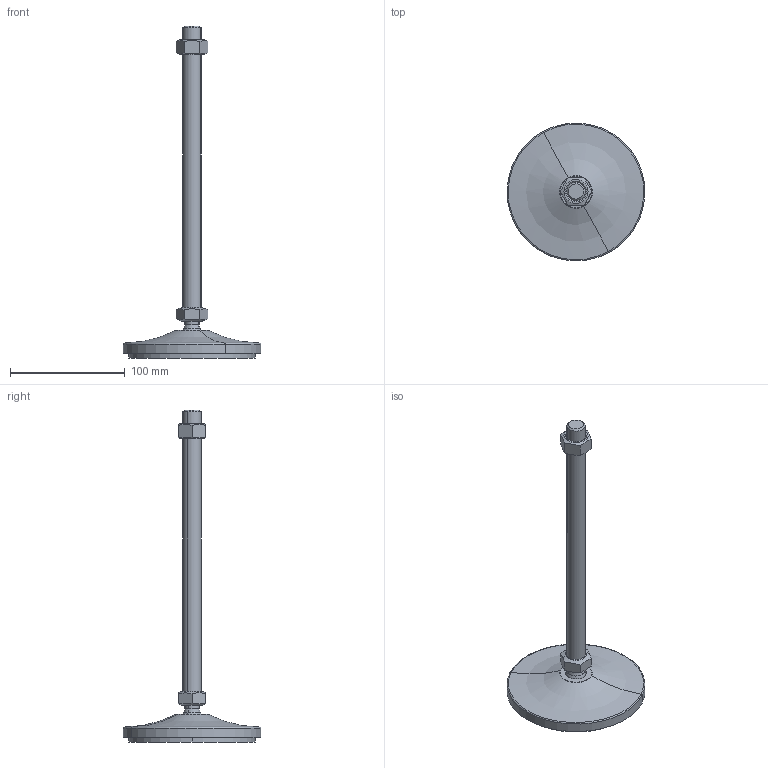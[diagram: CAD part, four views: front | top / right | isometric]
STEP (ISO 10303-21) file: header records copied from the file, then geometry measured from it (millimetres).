
FILE_DESCRIPTION(('CATIA V5 STEP Exchange'),'2;1');
FILE_NAME('C:\Users\ALI OZGUN\Desktop\alhan\saplama2\560121629AV.stp','2017-09-21T10:31:51+00:00',('none'),('none'),'CATIA Version 5 Release 21 GA (IN-10)','CATIA V5 STEP AP203','none');
FILE_SCHEMA(('CONFIG_CONTROL_DESIGN'));
Length unit declared in the file: millimetre
Products named in the file (1): 560121629AV
Bounding box: 119.97 x 119.97 x 289 mm (x, y, z)
Volume: 231797.9 mm3; surface area: 67425.9 mm2
Topology: 4 solids, 4 shells, 64 faces, 142 edges, 87 vertices
Faces by surface type: plane 22, cylinder 16, cone 16, torus 4, revolution 4, sphere 2
Entity records: 1954 total; most frequent: CARTESIAN_POINT 646, ORIENTED_EDGE 280, DIRECTION 197, EDGE_CURVE 140, AXIS2_PLACEMENT_3D 106, VERTEX_POINT 87, EDGE_LOOP 71, ADVANCED_FACE 64
